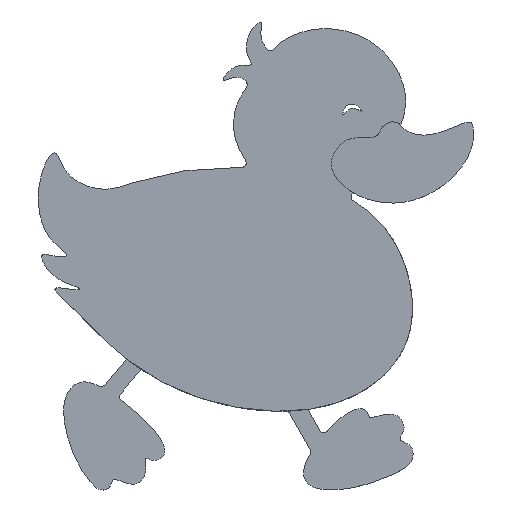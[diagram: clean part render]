
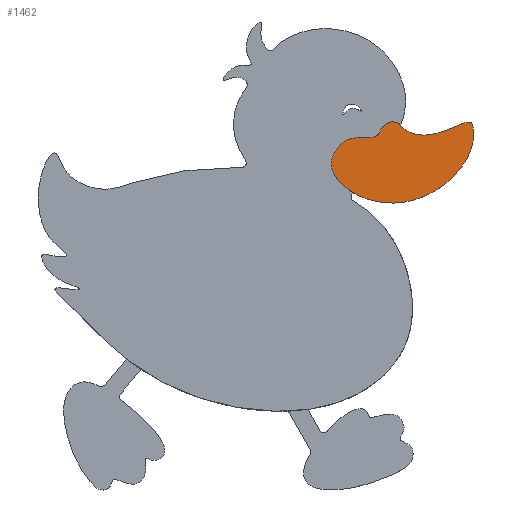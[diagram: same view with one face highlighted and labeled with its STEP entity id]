
A CAD part, top view. The second image highlights one B-rep face of the part: STEP entity #1462.
In plain terms, the highlighted planar face has unit normal (0, 0, 1).
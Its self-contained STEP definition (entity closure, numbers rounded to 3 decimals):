
#100 = PLANE ( 'NONE',  #1132 ) ;
#175 = VERTEX_POINT ( 'NONE', #1100 ) ;
#239 = CARTESIAN_POINT ( 'NONE',  ( 149.412, 650.78, -519.464 ) ) ;
#258 = CARTESIAN_POINT ( 'NONE',  ( 172.465, 668.861, -519.464 ) ) ;
#265 = CARTESIAN_POINT ( 'NONE',  ( -1506.106, 57.117, -519.464 ) ) ;
#270 = B_SPLINE_CURVE_WITH_KNOTS ( 'NONE', 3,
 ( #1842, #399, #1831, #382, #1398, #810, #1516, #1550, #258, #672, #1809, #239 ),
 .UNSPECIFIED., .F., .F.,
 ( 4, 1, 1, 1, 1, 1, 1, 1, 1, 4 ),
 ( 0.5, 0.655, 0.68, 0.709, 0.73, 0.82, 0.883, 0.925, 0.97, 1. ),
 .UNSPECIFIED. ) ;
#382 = CARTESIAN_POINT ( 'NONE',  ( 259.208, 669.962, -519.464 ) ) ;
#395 = DIRECTION ( 'NONE',  ( 1., 0., 0. ) ) ;
#399 = CARTESIAN_POINT ( 'NONE',  ( 252.81, 616.207, -519.464 ) ) ;
#411 = CARTESIAN_POINT ( 'NONE',  ( 115.932, 655.785, -519.464 ) ) ;
#430 = VERTEX_POINT ( 'NONE', #1538 ) ;
#438 = CARTESIAN_POINT ( 'NONE',  ( 224.975, 590.943, -519.464 ) ) ;
#585 = CARTESIAN_POINT ( 'NONE',  ( 149.412, 650.78, -519.464 ) ) ;
#666 = ORIENTED_EDGE ( 'NONE', *, *, #1011, .T. ) ;
#672 = CARTESIAN_POINT ( 'NONE',  ( 156.677, 665.561, -519.464 ) ) ;
#786 = FACE_OUTER_BOUND ( 'NONE', #833, .T. ) ;
#810 = CARTESIAN_POINT ( 'NONE',  ( 209.719, 649.128, -519.464 ) ) ;
#833 = EDGE_LOOP ( 'NONE', ( #1223, #666 ) ) ;
#837 = EDGE_CURVE ( 'NONE', #175, #430, #1143, .T. ) ;
#841 = CARTESIAN_POINT ( 'NONE',  ( 195.345, 572.469, -519.464 ) ) ;
#858 = CARTESIAN_POINT ( 'NONE',  ( 106.515, 591.044, -519.464 ) ) ;
#1010 = CARTESIAN_POINT ( 'NONE',  ( 234.881, 599.934, -519.464 ) ) ;
#1011 = EDGE_CURVE ( 'NONE', #430, #175, #270, .T. ) ;
#1100 = CARTESIAN_POINT ( 'NONE',  ( 149.412, 650.78, -519.464 ) ) ;
#1132 = AXIS2_PLACEMENT_3D ( 'NONE', #265, #1868, #395 ) ;
#1142 = CARTESIAN_POINT ( 'NONE',  ( 142.652, 645.057, -519.464 ) ) ;
#1143 = B_SPLINE_CURVE_WITH_KNOTS ( 'NONE', 3,
 ( #585, #1142, #411, #1719, #858, #1438, #841, #438, #1010 ),
 .UNSPECIFIED., .F., .F.,
 ( 4, 1, 1, 1, 1, 1, 4 ),
 ( 0., 0.066, 0.132, 0.187, 0.285, 0.415, 0.5 ),
 .UNSPECIFIED. ) ;
#1223 = ORIENTED_EDGE ( 'NONE', *, *, #837, .T. ) ;
#1398 = CARTESIAN_POINT ( 'NONE',  ( 240.021, 660.901, -519.464 ) ) ;
#1438 = CARTESIAN_POINT ( 'NONE',  ( 147.986, 569.487, -519.464 ) ) ;
#1462 = ADVANCED_FACE ( 'NONE', ( #786 ), #100, .T. ) ;
#1516 = CARTESIAN_POINT ( 'NONE',  ( 192.364, 652.751, -519.464 ) ) ;
#1538 = CARTESIAN_POINT ( 'NONE',  ( 234.881, 599.934, -519.464 ) ) ;
#1550 = CARTESIAN_POINT ( 'NONE',  ( 184.053, 655.817, -519.464 ) ) ;
#1719 = CARTESIAN_POINT ( 'NONE',  ( 91.111, 621.521, -519.464 ) ) ;
#1809 = CARTESIAN_POINT ( 'NONE',  ( 152.498, 653.392, -519.464 ) ) ;
#1831 = CARTESIAN_POINT ( 'NONE',  ( 266.457, 641.36, -519.464 ) ) ;
#1842 = CARTESIAN_POINT ( 'NONE',  ( 234.881, 599.934, -519.464 ) ) ;
#1868 = DIRECTION ( 'NONE',  ( 0., 0., 1. ) ) ;
